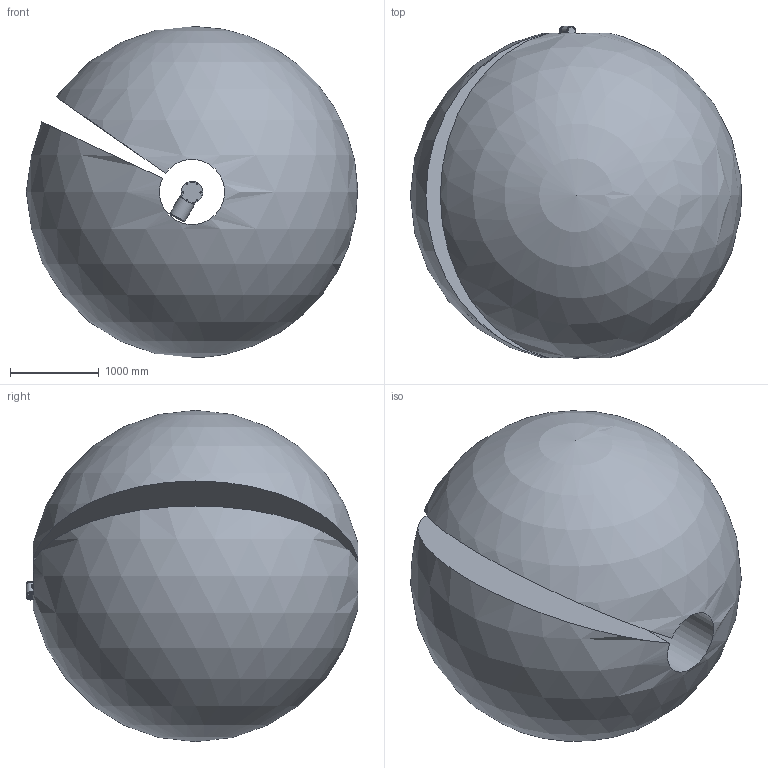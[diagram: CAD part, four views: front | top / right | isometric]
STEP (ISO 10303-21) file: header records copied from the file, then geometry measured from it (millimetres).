
FILE_DESCRIPTION (( 'STEP AP214' ), '1' );
FILE_NAME ('FR20-V6.0-外发模型-包络图.STEP', '2025-12-27T22:52:33', ( '崔兵' ), ( '' ), 'SwSTEP 2.0', 'SolidWorks 2018', '' );
FILE_SCHEMA (( 'AUTOMOTIVE_DESIGN' ));
Length unit declared in the file: millimetre
Products named in the file (9): RD20-FR20-V6.0-1; RD20-FR20-V6.0-3; RD20-FR20-V6.0-2; RD20-FR20-V6.0-7; FR20堍雄毓峓; RD20-FR20-V6.0-6; RD20-FR20-V6.0-5; FR20-V6.0-俋楷耀倰-婦釐芞; RD20-FR20-V6.0-4
Assembly tree (8 placements, depth 2):
  FR20-V6.0-俋楷耀倰-婦釐芞
    RD20-FR20-V6.0-1
    RD20-FR20-V6.0-2
    RD20-FR20-V6.0-3
    RD20-FR20-V6.0-4
    RD20-FR20-V6.0-5
    RD20-FR20-V6.0-6
    RD20-FR20-V6.0-7
    FR20堍雄毓峓
Bounding box: 3735.69 x 3743.4 x 3736 mm (x, y, z)
Volume: 25064146369.2 mm3; surface area: 60002490.7 mm2
Topology: 37 solids, 64 shells, 2462 faces, 4796 edges, 3089 vertices
Faces by surface type: plane 1149, cylinder 831, bspline 376, cone 79, sphere 25, torus 2
Full cylindrical faces by diameter (mm): 0.747 x4, 0.777 x1, 0.786 x7, 0.935 x1, 1 x12, 1.145 x1, 1.548 x8, 2.5 x8, 3 x270, 3.3 x9, 3.4 x12, 4.5 x162, 5 x17, 6 x21, 8 x3, 9.995 x2, 10.5 x6, 12 x9, 13.5 x2, 14 x2, 14.1 x2, 15 x2, 16.022 x2, 18.475 x1, 31.5 x1, 63 x1, 94 x3, 95 x3, 107.5 x1, 110 x2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
Entity records: 231740 total; most frequent: CARTESIAN_POINT 176197, DIRECTION 8036, ORIENTED_EDGE 7884, EDGE_CURVE 3942, EDGE_LOOP 3850, AXIS2_PLACEMENT_3D 3443, FACE_OUTER_BOUND 3143, VERTEX_POINT 2958
